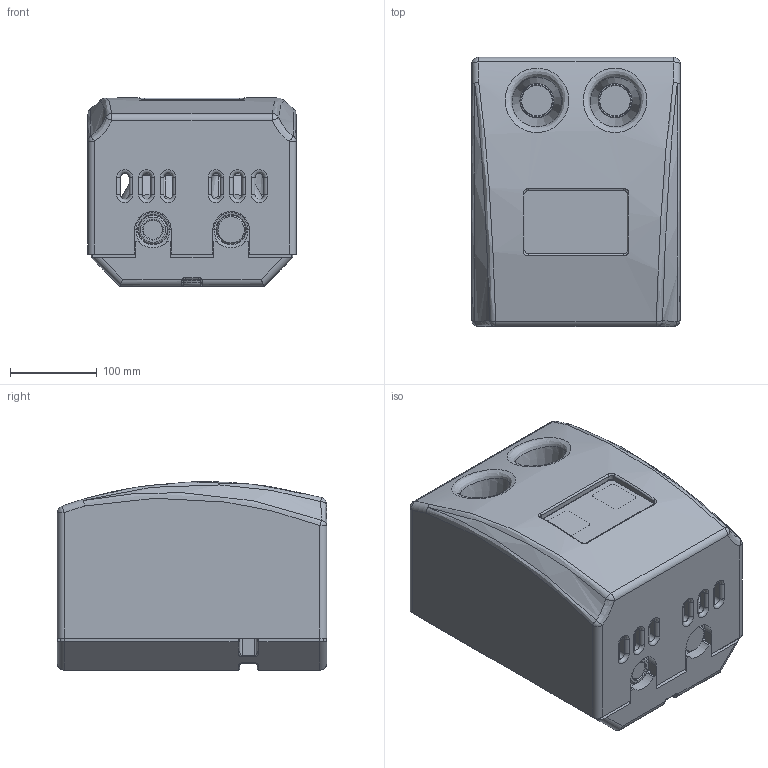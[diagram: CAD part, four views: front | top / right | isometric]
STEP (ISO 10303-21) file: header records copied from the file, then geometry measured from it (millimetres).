
FILE_DESCRIPTION(/* description */ (''),/* implementation_level */ '2;1');
FILE_NAME(/* name */ 'C:\Users\pruefep\Desktop\HK20.stp',/* time_stamp */ '2020-04-23T15:37:04+02:00',/* author */ ('pruefep'),/* organization */ (''),/* preprocessor_version */ 'ST-DEVELOPER v17',/* originating_system */ 'Autodesk Inventor 2018',/* authorisation */ '');
FILE_SCHEMA (('AUTOMOTIVE_DESIGN { 1 0 10303 214 3 1 1 }'));
Products named in the file (7): WIDE90002700; Hydraulik_HK20; 29112016_004; 30112016_003; 05122016_002; 15092016_007; WIDE90002701
Assembly tree (6 placements, depth 2):
  WIDE90002700
    Hydraulik_HK20
    29112016_004
    30112016_003
    05122016_002
    15092016_007
    WIDE90002701
Bounding box: 240 x 310 x 216.83 mm (x, y, z)
Volume: 8930643.3 mm3; surface area: 1129444.5 mm2
Topology: 8 solids, 8 shells, 3400 faces, 9331 edges, 5900 vertices
Faces by surface type: plane 1276, cylinder 1061, bspline 414, torus 354, cone 224, sphere 71
Full cylindrical faces by diameter (mm): 2 x12, 6 x4, 9 x7, 9.6 x3, 9.85 x4, 11.8 x10, 12 x4, 18 x3, 22 x1, 23 x2, 24 x1, 28.3 x3, 29 x2, 30 x4, 30.291 x2, 32.222 x1, 33 x1, 33.249 x4, 39 x5, 39.4 x2, 40 x2
Entity records: 127818 total; most frequent: CARTESIAN_POINT 40583, ORIENTED_EDGE 18664, DIRECTION 17491, EDGE_CURVE 9332, AXIS2_PLACEMENT_3D 6684, VERTEX_POINT 5900, LINE 4123, VECTOR 4123
